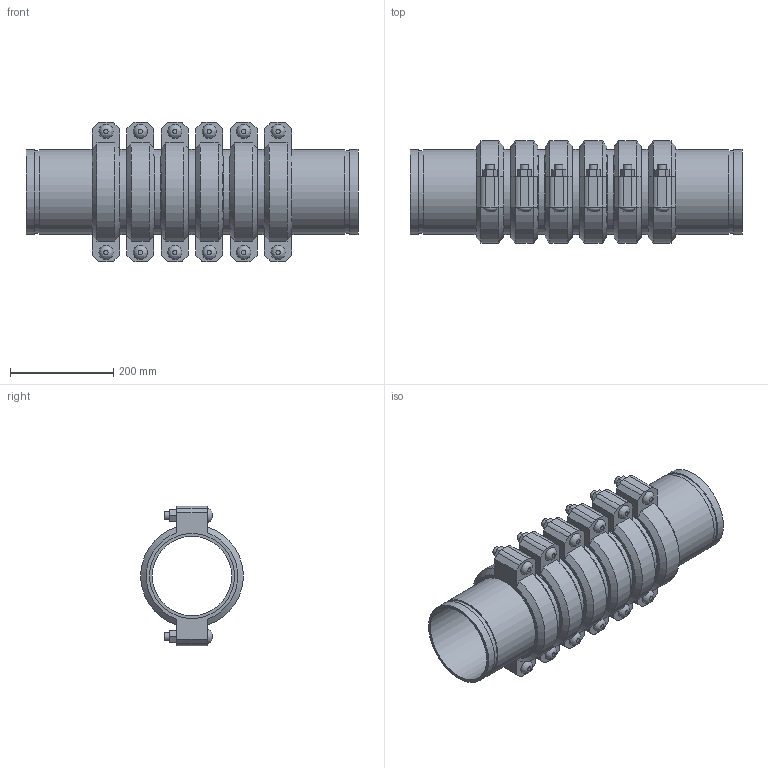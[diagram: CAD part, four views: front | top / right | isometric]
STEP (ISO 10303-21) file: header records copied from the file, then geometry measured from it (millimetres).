
FILE_DESCRIPTION(/* description */ ('VIC EXPANSION JOINT 6 COUPLINGS EXPANDED STYLE 155 (OGS)','CAx-IF Rec.Pracs.---Representation and Presentation of Product Manufacturing Information (PMI)---4.0---2014-10-13'),/* implementation_level */ '2;1');
FILE_NAME(/* name */ 'C:\Users\kkamble\AppData\Roaming\Autodesk\ApplicationPlugins\Victaulic.Temp\A6\Victaulic_IPS_Expansion Joint_Expanded_6 Couplings_Style 155 (OGS)_06.0 (165.1) (150).stp',/* time_stamp */ '2021-06-27T00:05:06+02:00',/* author */ ('kkamble'),/* organization */ ('Victaulic'),/* preprocessor_version */ 'ST-DEVELOPER v17.2',/* originating_system */ 'Autodesk Inventor 2019',/* authorisation */ '');
FILE_SCHEMA (('AP242_MANAGED_MODEL_BASED_3D_ENGINEERING_MIM_LF { 1 0 10303 442 1 1 4 }'));
Length unit declared in the file: inch
Products named in the file (4): 155-06.0 (165.1); Nipple-06.0 (165.1); Nipple-06.0 (165.1)_1; 075-06.0 (165.1)
Assembly tree (13 placements, depth 2):
  155-06.0 (165.1)
    Nipple-06.0 (165.1)  x2
    Nipple-06.0 (165.1)_1  x5
    075-06.0 (165.1)  x6
Bounding box: 644.4 x 198.42 x 270.76 mm (x, y, z)
Volume: 5831621.9 mm3; surface area: 1346523.9 mm2
Topology: 13 solids, 25 shells, 426 faces, 1008 edges, 708 vertices
Faces by surface type: plane 258, cylinder 132, cone 24, bspline 12
Full cylindrical faces by diameter (mm): 15.875 x24, 17.424 x12, 153.975 x7, 158.75 x6, 160.782 x14, 165.1 x33
Entity records: 2817 total; most frequent: CARTESIAN_POINT 497, DIRECTION 469, ORIENTED_EDGE 386, EDGE_CURVE 193, AXIS2_PLACEMENT_3D 188, VERTEX_POINT 138, EDGE_LOOP 107, LINE 93
